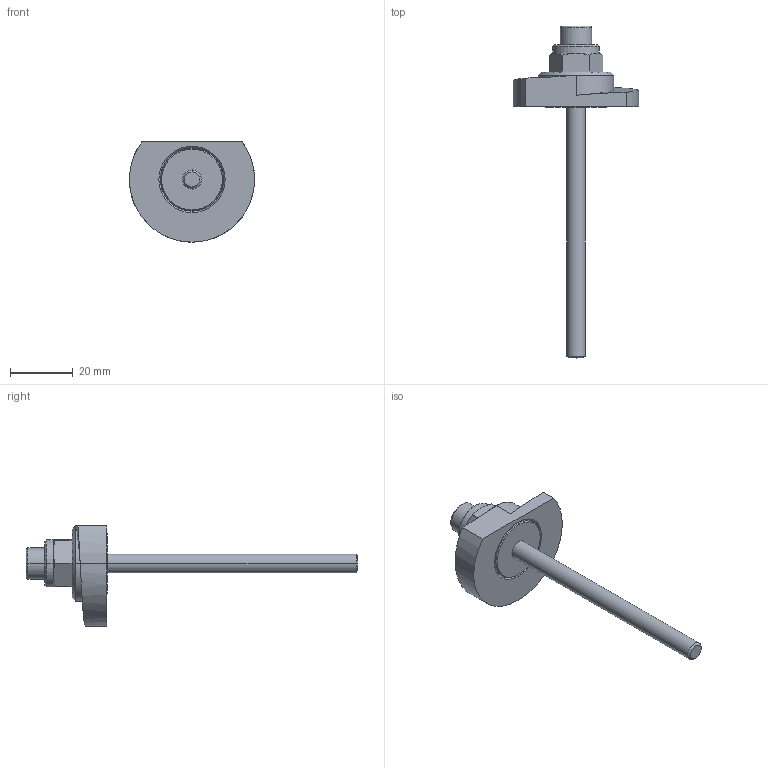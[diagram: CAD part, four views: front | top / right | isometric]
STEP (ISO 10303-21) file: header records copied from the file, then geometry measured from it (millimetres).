
FILE_DESCRIPTION (( 'STEP AP214' ), '1' );
FILE_NAME ('918.1-40-SKS-R-80.step', '2024-05-15T13:01:27', ( '' ), ( '' ), 'SwSTEP 2.0', 'SolidWorks 2022', '' );
FILE_SCHEMA (( 'AUTOMOTIVE_DESIGN' ));
Length unit declared in the file: millimetre
Products named in the file (1): 918.1-40-SKS-R-80
Bounding box: 40 x 106 x 32 mm (x, y, z)
Volume: 13212 mm3; surface area: 7716.4 mm2
Topology: 1 solids, 2 shells, 82 faces, 185 edges, 116 vertices
Faces by surface type: cylinder 30, plane 26, cone 22, torus 2, bspline 2
Entity records: 2641 total; most frequent: CARTESIAN_POINT 753, DIRECTION 407, ORIENTED_EDGE 370, EDGE_CURVE 185, AXIS2_PLACEMENT_3D 163, VERTEX_POINT 116, EDGE_LOOP 93, CIRCLE 82
